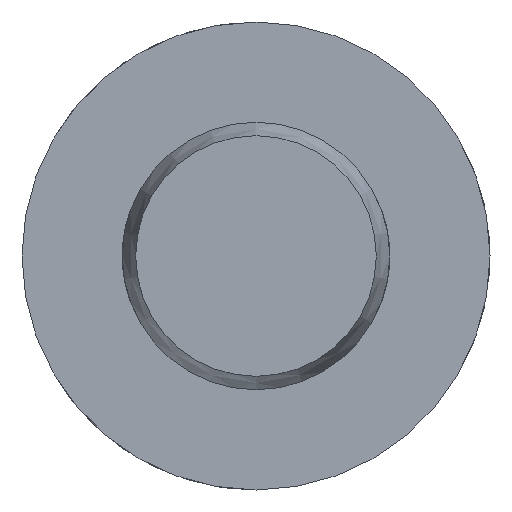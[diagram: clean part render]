
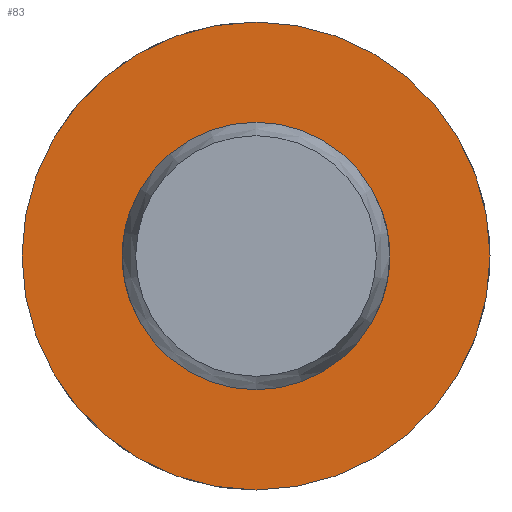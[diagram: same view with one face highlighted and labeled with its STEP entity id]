
A CAD part, left-side view. The second image highlights one B-rep face of the part: STEP entity #83.
In plain terms, the highlighted planar face has unit normal (-1, 0, 0).
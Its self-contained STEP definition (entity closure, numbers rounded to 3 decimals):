
#83 = ADVANCED_FACE( '', ( #128, #129 ), #130, .F. );
#128 = FACE_OUTER_BOUND( '', #204, .T. );
#129 = FACE_BOUND( '', #205, .T. );
#130 = PLANE( '', #206 );
#204 = EDGE_LOOP( '', ( #318 ) );
#205 = EDGE_LOOP( '', ( #319 ) );
#206 = AXIS2_PLACEMENT_3D( '', #320, #321, #322 );
#318 = ORIENTED_EDGE( '', *, *, #481, .F. );
#319 = ORIENTED_EDGE( '', *, *, #471, .T. );
#320 = CARTESIAN_POINT( '', ( 28.2, 4., 0. ) );
#321 = DIRECTION( '', ( 1., 0., 0. ) );
#322 = DIRECTION( '', ( 0., 0., -1. ) );
#471 = EDGE_CURVE( '', #541, #541, #542, .T. );
#481 = EDGE_CURVE( '', #559, #559, #560, .T. );
#541 = VERTEX_POINT( '', #726 );
#542 = CIRCLE( '', #727, 4. );
#559 = VERTEX_POINT( '', #861 );
#560 = CIRCLE( '', #862, 7. );
#726 = CARTESIAN_POINT( '', ( 28.2, 0., -4. ) );
#727 = AXIS2_PLACEMENT_3D( '', #923, #924, #925 );
#861 = CARTESIAN_POINT( '', ( 28.2, 0., -7. ) );
#862 = AXIS2_PLACEMENT_3D( '', #944, #945, #946 );
#923 = CARTESIAN_POINT( '', ( 28.2, 0., 0. ) );
#924 = DIRECTION( '', ( 1., 0., 0. ) );
#925 = DIRECTION( '', ( 0., 0., -1. ) );
#944 = CARTESIAN_POINT( '', ( 28.2, 0., 0. ) );
#945 = DIRECTION( '', ( 1., 0., 0. ) );
#946 = DIRECTION( '', ( 0., 0., -1. ) );
